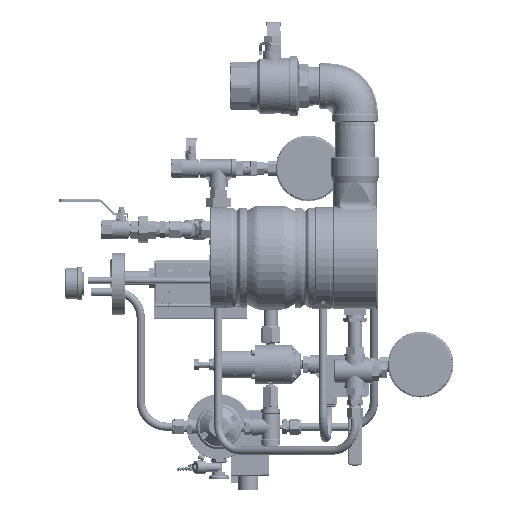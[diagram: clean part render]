
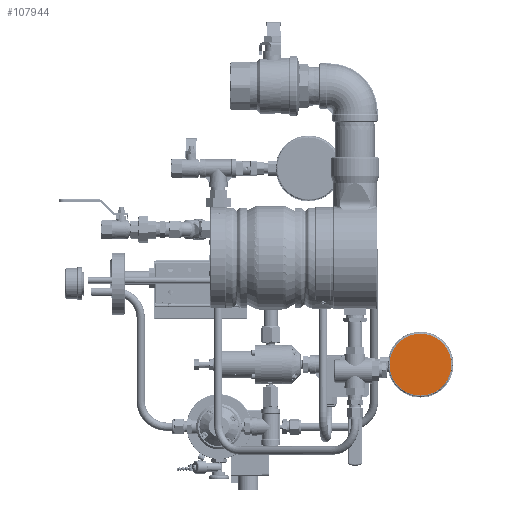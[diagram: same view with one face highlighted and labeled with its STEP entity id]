
A CAD part, top view. The second image highlights one B-rep face of the part: STEP entity #107944.
In plain terms, the highlighted planar face has unit normal (0, 0, 1).
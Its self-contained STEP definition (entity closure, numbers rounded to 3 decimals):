
#8399=PLANE('',#117131);
#13608=FACE_OUTER_BOUND('',#20356,.T.);
#20356=EDGE_LOOP('',(#84795));
#39834=CIRCLE('',#117118,47.5);
#47386=VERTEX_POINT('',#188437);
#60410=EDGE_CURVE('',#47386,#47386,#39834,.T.);
#84795=ORIENTED_EDGE('',*,*,#60410,.F.);
#107944=ADVANCED_FACE('',(#13608),#8399,.F.);
#117118=AXIS2_PLACEMENT_3D('',#188439,#137921,#137922);
#117131=AXIS2_PLACEMENT_3D('',#188796,#137950,#137951);
#137921=DIRECTION('center_axis',(0.,0.,
-1.));
#137922=DIRECTION('ref_axis',(0.,1.,0.));
#137950=DIRECTION('center_axis',(0.,0.,
-1.));
#137951=DIRECTION('ref_axis',(0.,1.,0.));
#188437=CARTESIAN_POINT('',(584.864,-1008.666,-982.483));
#188439=CARTESIAN_POINT('Origin',(584.864,-961.166,-982.483));
#188796=CARTESIAN_POINT('Origin',(584.864,-961.166,-982.483));
